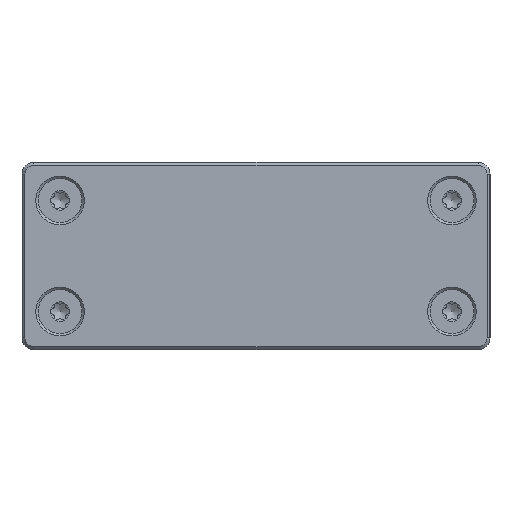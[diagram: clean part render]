
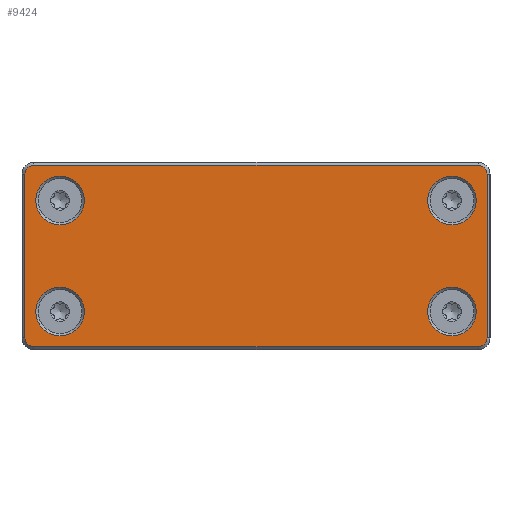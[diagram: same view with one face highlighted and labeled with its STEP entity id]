
A CAD part, left-side view. The second image highlights one B-rep face of the part: STEP entity #9424.
In plain terms, the highlighted planar face has unit normal (-1, 0, 0).
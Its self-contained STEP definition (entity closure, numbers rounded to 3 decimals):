
#81=FACE_BOUND('',#1665,.T.);
#82=FACE_BOUND('',#1666,.T.);
#83=FACE_BOUND('',#1667,.T.);
#84=FACE_BOUND('',#1668,.T.);
#216=PLANE('',#10346);
#1097=FACE_OUTER_BOUND('',#1664,.T.);
#1664=EDGE_LOOP('',(#7744,#7745,#7746,#7747,#7748,#7749,#7750,#7751));
#1665=EDGE_LOOP('',(#7752));
#1666=EDGE_LOOP('',(#7753));
#1667=EDGE_LOOP('',(#7754));
#1668=EDGE_LOOP('',(#7755));
#2248=LINE('',#17806,#2874);
#2253=LINE('',#17820,#2879);
#2257=LINE('',#17832,#2883);
#2261=LINE('',#17844,#2887);
#2874=VECTOR('',#12207,10.);
#2879=VECTOR('',#12220,10.);
#2883=VECTOR('',#12232,10.);
#2887=VECTOR('',#12244,10.);
#3529=CIRCLE('',#10325,1.5);
#3531=CIRCLE('',#10329,1.5);
#3533=CIRCLE('',#10333,1.5);
#3535=CIRCLE('',#10337,1.5);
#3540=CIRCLE('',#10347,4.15);
#3541=CIRCLE('',#10348,4.15);
#3542=CIRCLE('',#10349,4.15);
#3543=CIRCLE('',#10350,4.15);
#4348=VERTEX_POINT('',#17803);
#4349=VERTEX_POINT('',#17805);
#4352=VERTEX_POINT('',#17813);
#4354=VERTEX_POINT('',#17818);
#4356=VERTEX_POINT('',#17825);
#4358=VERTEX_POINT('',#17830);
#4360=VERTEX_POINT('',#17837);
#4362=VERTEX_POINT('',#17842);
#4370=VERTEX_POINT('',#17876);
#4371=VERTEX_POINT('',#17878);
#4372=VERTEX_POINT('',#17880);
#4373=VERTEX_POINT('',#17882);
#5549=EDGE_CURVE('',#4348,#4349,#2248,.T.);
#5554=EDGE_CURVE('',#4352,#4348,#3529,.T.);
#5556=EDGE_CURVE('',#4354,#4352,#2253,.T.);
#5560=EDGE_CURVE('',#4356,#4354,#3531,.T.);
#5562=EDGE_CURVE('',#4358,#4356,#2257,.T.);
#5566=EDGE_CURVE('',#4360,#4358,#3533,.T.);
#5568=EDGE_CURVE('',#4362,#4360,#2261,.T.);
#5571=EDGE_CURVE('',#4349,#4362,#3535,.T.);
#5587=EDGE_CURVE('',#4370,#4370,#3540,.T.);
#5588=EDGE_CURVE('',#4371,#4371,#3541,.T.);
#5589=EDGE_CURVE('',#4372,#4372,#3542,.T.);
#5590=EDGE_CURVE('',#4373,#4373,#3543,.T.);
#7744=ORIENTED_EDGE('',*,*,#5549,.F.);
#7745=ORIENTED_EDGE('',*,*,#5554,.F.);
#7746=ORIENTED_EDGE('',*,*,#5556,.F.);
#7747=ORIENTED_EDGE('',*,*,#5560,.F.);
#7748=ORIENTED_EDGE('',*,*,#5562,.F.);
#7749=ORIENTED_EDGE('',*,*,#5566,.F.);
#7750=ORIENTED_EDGE('',*,*,#5568,.F.);
#7751=ORIENTED_EDGE('',*,*,#5571,.F.);
#7752=ORIENTED_EDGE('',*,*,#5587,.T.);
#7753=ORIENTED_EDGE('',*,*,#5588,.T.);
#7754=ORIENTED_EDGE('',*,*,#5589,.T.);
#7755=ORIENTED_EDGE('',*,*,#5590,.T.);
#9424=ADVANCED_FACE('',(#1097,#81,#82,#83,#84),#216,.T.);
#10325=AXIS2_PLACEMENT_3D('',#17815,#12215,#12216);
#10329=AXIS2_PLACEMENT_3D('',#17827,#12227,#12228);
#10333=AXIS2_PLACEMENT_3D('',#17839,#12239,#12240);
#10337=AXIS2_PLACEMENT_3D('',#17848,#12250,#12251);
#10346=AXIS2_PLACEMENT_3D('',#17875,#12279,#12280);
#10347=AXIS2_PLACEMENT_3D('',#17877,#12281,#12282);
#10348=AXIS2_PLACEMENT_3D('',#17879,#12283,#12284);
#10349=AXIS2_PLACEMENT_3D('',#17881,#12285,#12286);
#10350=AXIS2_PLACEMENT_3D('',#17883,#12287,#12288);
#12207=DIRECTION('',(0.,-1.,0.));
#12215=DIRECTION('center_axis',(1.,0.,0.));
#12216=DIRECTION('ref_axis',(0.,0.707,0.707));
#12220=DIRECTION('',(0.,0.,1.));
#12227=DIRECTION('center_axis',(1.,0.,0.));
#12228=DIRECTION('ref_axis',(0.,0.707,-0.707));
#12232=DIRECTION('',(0.,1.,0.));
#12239=DIRECTION('center_axis',(1.,0.,0.));
#12240=DIRECTION('ref_axis',(0.,-0.707,-0.707));
#12244=DIRECTION('',(0.,0.,-1.));
#12250=DIRECTION('center_axis',(1.,0.,0.));
#12251=DIRECTION('ref_axis',(0.,-0.707,0.707));
#12279=DIRECTION('center_axis',(-1.,0.,0.));
#12280=DIRECTION('ref_axis',(0.,-1.,0.));
#12281=DIRECTION('center_axis',(1.,0.,0.));
#12282=DIRECTION('ref_axis',(0.,-1.,0.));
#12283=DIRECTION('center_axis',(1.,0.,0.));
#12284=DIRECTION('ref_axis',(0.,-1.,0.));
#12285=DIRECTION('center_axis',(1.,0.,0.));
#12286=DIRECTION('ref_axis',(0.,-1.,0.));
#12287=DIRECTION('center_axis',(1.,0.,0.));
#12288=DIRECTION('ref_axis',(0.,-1.,0.));
#17803=CARTESIAN_POINT('',(-811.052,103.824,141.275));
#17805=CARTESIAN_POINT('',(-811.052,27.824,141.275));
#17806=CARTESIAN_POINT('',(-811.052,45.824,141.275));
#17813=CARTESIAN_POINT('',(-811.052,105.324,139.775));
#17815=CARTESIAN_POINT('Origin',(-811.052,103.824,139.775));
#17818=CARTESIAN_POINT('',(-811.052,105.324,111.775));
#17820=CARTESIAN_POINT('',(-811.052,105.324,133.775));
#17825=CARTESIAN_POINT('',(-811.052,103.824,110.275));
#17827=CARTESIAN_POINT('Origin',(-811.052,103.824,111.775));
#17830=CARTESIAN_POINT('',(-811.052,27.824,110.275));
#17832=CARTESIAN_POINT('',(-811.052,85.824,110.275));
#17837=CARTESIAN_POINT('',(-811.052,26.324,111.775));
#17839=CARTESIAN_POINT('Origin',(-811.052,27.824,111.775));
#17842=CARTESIAN_POINT('',(-811.052,26.324,139.775));
#17844=CARTESIAN_POINT('',(-811.052,26.324,117.775));
#17848=CARTESIAN_POINT('Origin',(-811.052,27.824,139.775));
#17875=CARTESIAN_POINT('Origin',(-811.052,65.824,125.775));
#17876=CARTESIAN_POINT('',(-811.052,103.474,116.275));
#17877=CARTESIAN_POINT('Origin',(-811.052,99.324,116.275));
#17878=CARTESIAN_POINT('',(-811.052,36.474,135.275));
#17879=CARTESIAN_POINT('Origin',(-811.052,32.324,135.275));
#17880=CARTESIAN_POINT('',(-811.052,103.474,135.275));
#17881=CARTESIAN_POINT('Origin',(-811.052,99.324,135.275));
#17882=CARTESIAN_POINT('',(-811.052,36.474,116.275));
#17883=CARTESIAN_POINT('Origin',(-811.052,32.324,116.275));
